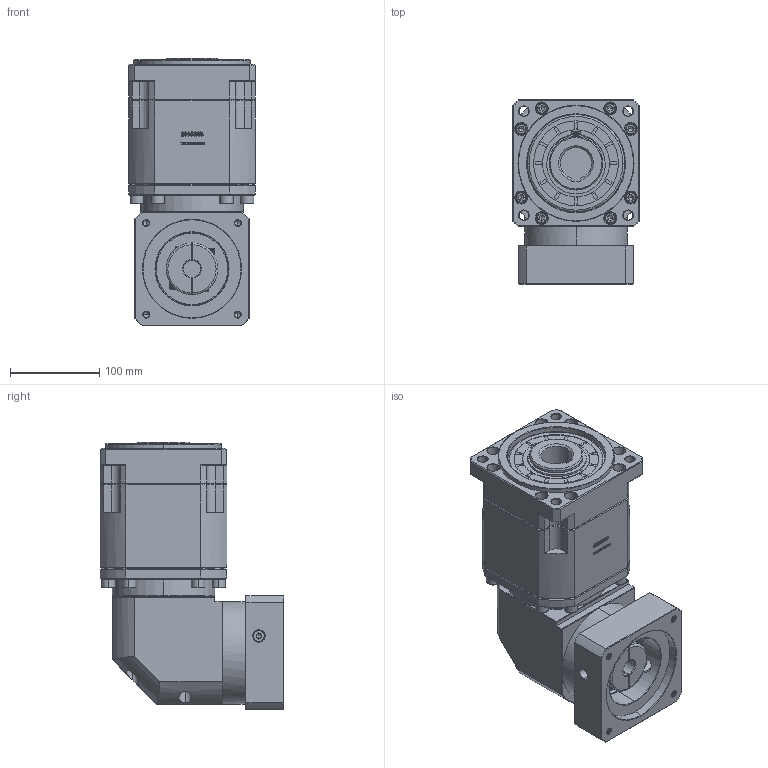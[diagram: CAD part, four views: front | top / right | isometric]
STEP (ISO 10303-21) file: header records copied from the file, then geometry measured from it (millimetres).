
FILE_DESCRIPTION (( 'STEP AP214' ), '1' );
FILE_NAME ('ZBR142A-K35-L3-19-110-145-M8.step', '2023-03-20T04:16:15', ( '' ), ( '' ), 'SwSTEP 2.0', 'SolidWorks 2016', '' );
FILE_SCHEMA (( 'AUTOMOTIVE_DESIGN' ));
Length unit declared in the file: millimetre
Products named in the file (1): ZBR142A-K35-L3-19-110-145-M8
Bounding box: 142 x 205.9 x 300.2 mm (x, y, z)
Volume: 5069509.5 mm3; surface area: 339417.7 mm2
Topology: 6 solids, 6 shells, 3130 faces, 8248 edges, 5285 vertices
Faces by surface type: plane 1645, bspline 586, cylinder 465, cone 390, torus 44
Entity records: 164033 total; most frequent: CARTESIAN_POINT 56729, ORIENTED_EDGE 16392, DIRECTION 12850, EDGE_CURVE 8196, VECTOR 5528, LINE 5528, VERTEX_POINT 5285, AXIS2_PLACEMENT_3D 3661
